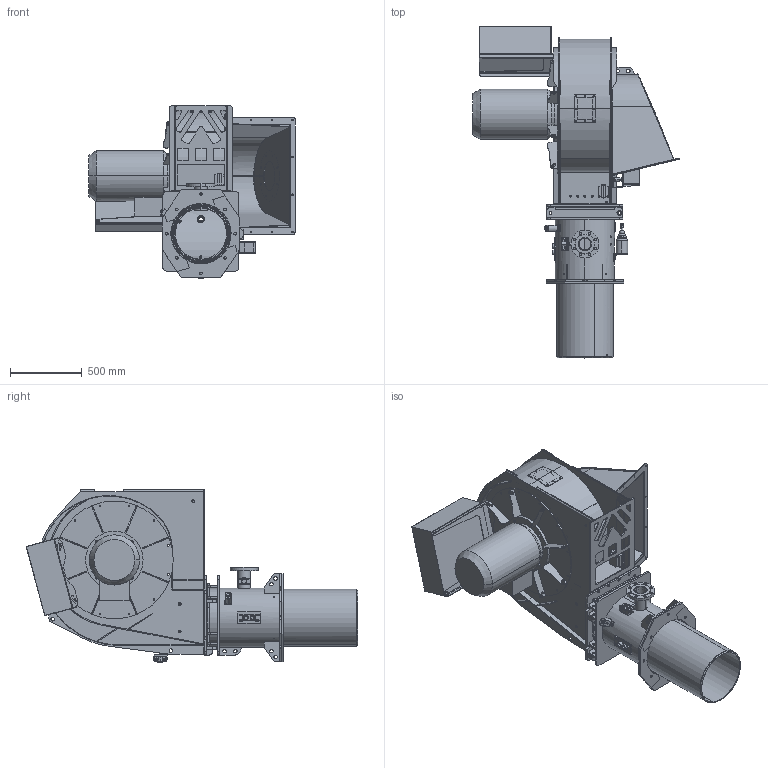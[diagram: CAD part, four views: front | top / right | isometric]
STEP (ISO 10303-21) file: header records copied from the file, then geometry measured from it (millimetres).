
FILE_DESCRIPTION (( 'STEP AP214' ), '1' );
FILE_NAME ('T-5.630_720 GL.STEP', '2021-05-07T17:11:35', ( 'Pavel' ), ( '' ), 'SwSTEP 2.0', 'SolidWorks 2016', '' );
FILE_SCHEMA (( 'AUTOMOTIVE_DESIGN' ));
Length unit declared in the file: millimetre
Products named in the file (2): T-5.630_720 GL
Bounding box: 1439.26 x 2311.57 x 1200.8 mm (x, y, z)
Volume: 108205868.7 mm3; surface area: 19715060.9 mm2
Topology: 100 solids, 101 shells, 3321 faces, 8872 edges, 5801 vertices
Faces by surface type: plane 1429, cylinder 1252, bspline 497, cone 133, torus 10
Entity records: 159447 total; most frequent: CARTESIAN_POINT 39709, ORIENTED_EDGE 17698, DIRECTION 15561, EDGE_CURVE 8849, VERTEX_POINT 5800, AXIS2_PLACEMENT_3D 5227, LINE 5107, VECTOR 5107
